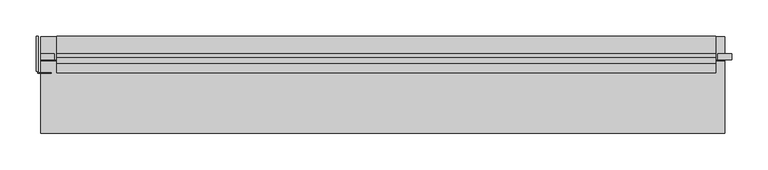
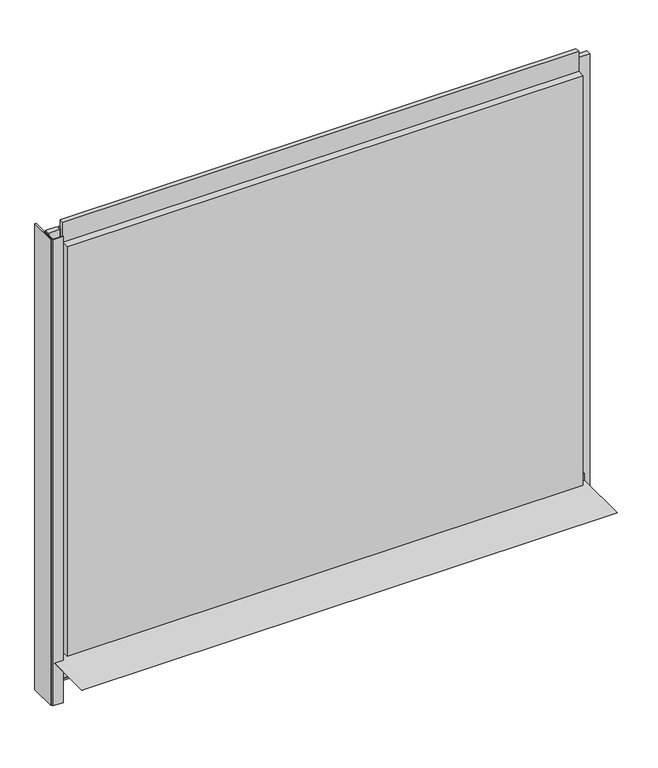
"""IFC4 building model written with IfcOpenShell, lengths in millimetres: plate geometry, Trimo_Qbiss Screen_Normal Panel-HORIZONTAL : HR - B."""

from ifc_helpers import new_model, si_unit, frame, origin, place, context, project, spatial, polyline, outline, extrude, source, transform, mapped, element, save


def plate_9abe25f3(model_context):
    return source(origin(), model_context, "Body", "SweptSolid", [
        extrude(outline(polyline([(111.7, 14.0835797), (112.5, 14.0835797), (112.5, -23.0), (145.0, -25.8433816), (145.0, -76.0), (132.1509533, -63.1509533), (132.7166388, -62.5852679), (144.2, -74.0686292), (144.2, -26.5764465), (111.7, -23.7330649), (111.7, 1.0), (12.5, 1.0), (12.5, 1.8), (111.7, 1.8), (111.7, 14.0835797)])), frame((-459.75, 0.0, 0.0), z_axis=(1.0, 0.0, 0.0), x_axis=(0.0, 1.0, 0.0)), (0.0, 0.0, 1.0), 938.5),
        extrude(outline(polyline([(-462.75, 145.0), (-462.75, 95.0), (-445.25, 95.0), (-445.25, 94.2), (-463.55, 94.2), (-463.55, 144.2), (-464.55, 144.2), (-464.55, 97.0), (-465.35, 97.0), (-465.35, 145.0), (-462.75, 145.0)])), frame((0.0, 0.0, -76.0), z_axis=(0.0, 0.0, 1.0), x_axis=(1.0, 0.0, 0.0)), (0.0, 0.0, 1.0), 862.95),
        extrude(outline(polyline([(-440.75, 121.5978162), (-440.75, 112.8978162), (-459.75, 112.8978162), (-459.75, 121.5978162), (-440.75, 121.5978162)])), frame((0.0, 0.0, -20.0), z_axis=(0.0, 0.0, 1.0), x_axis=(1.0, 0.0, 0.0)), (0.0, 0.0, 1.0), 806.95),
        extrude(outline(polyline([(469.25, 112.8978162), (469.25, 121.5978162), (488.25, 121.5978162), (488.25, 112.8978162), (469.25, 112.8978162)])), frame((0.0, 0.0, -20.0), z_axis=(0.0, 0.0, 1.0), x_axis=(1.0, 0.0, 0.0)), (0.0, 0.0, 1.0), 806.95),
        extrude(outline(polyline([(466.25, 121.0), (466.25, 116.0), (-437.75, 116.0), (-437.75, 121.0), (466.25, 121.0)])), frame((0.0, 0.0, 765.95), z_axis=(0.0, 0.0, 1.0), x_axis=(1.0, 0.0, 0.0)), (0.0, 0.0, 1.0), 21.0),
        extrude(outline(polyline([(116.0, 764.95), (145.0, 764.95), (145.0, 0.0), (117.0, 0.0), (117.0, 15.5), (107.0, 15.5), (107.0, 7.0), (95.0, 7.0), (95.0, 764.95), (108.0, 764.95), (108.0, 802.45), (116.0, 802.45), (116.0, 764.95)])), frame((-437.75, 0.0, 0.0), z_axis=(1.0, 0.0, 0.0), x_axis=(0.0, 1.0, 0.0)), (0.0, 0.0, 1.0), 904.0),
    ])


if __name__ == "__main__":
    model = new_model("IFC4")
    model_context = context("Model", 3, world=origin())
    ifc_project = project(units=[si_unit("LENGTHUNIT", "METRE", prefix="MILLI")], contexts=[model_context])
    site = spatial("IfcSite", under=ifc_project)
    building = spatial("IfcBuilding", under=site)
    placement = place(None, origin())
    plate_shape = plate_9abe25f3(model_context)
    element("IfcPlate", 1, ObjectType="Trimo_Qbiss Screen_Normal Panel-HORIZONTAL : HR - B", at=placement, inside=building, context=model_context, shape_type="MappedRepresentation", body=[
        mapped(plate_shape, transform((0.0, 0.0, 0.0), x_axis=(1.0, 0.0, 0.0), y_axis=(0.0, 1.0, 0.0), z_axis=(0.0, 0.0, 1.0))),
    ])
    save(model, "model.ifc")
